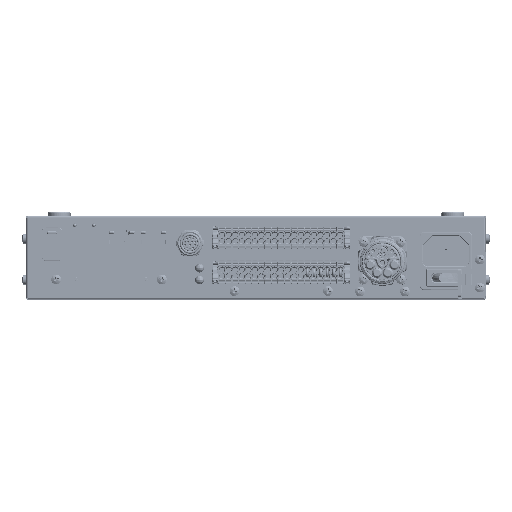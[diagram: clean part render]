
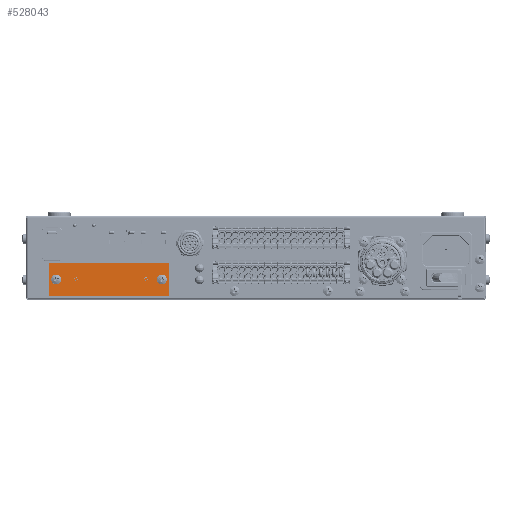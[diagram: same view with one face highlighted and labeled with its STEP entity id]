
A CAD part, top view. The second image highlights one B-rep face of the part: STEP entity #528043.
In plain terms, the highlighted planar face has unit normal (0, 0, 1).
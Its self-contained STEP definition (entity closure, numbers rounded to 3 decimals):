
#1617 = DIRECTION ( 'NONE',  ( 1., 0., 0. ) ) ;
#3649 = EDGE_CURVE ( 'NONE', #75527, #555016, #520898, .T. ) ;
#9838 = EDGE_CURVE ( 'NONE', #405489, #635443, #787280, .T. ) ;
#28063 = VECTOR ( 'NONE', #536474, 1000. ) ;
#52985 = VERTEX_POINT ( 'NONE', #846478 ) ;
#53763 = AXIS2_PLACEMENT_3D ( 'NONE', #298093, #791396, #119170 ) ;
#54445 = DIRECTION ( 'NONE',  ( 1., 0., 0. ) ) ;
#75527 = VERTEX_POINT ( 'NONE', #902372 ) ;
#77071 = CARTESIAN_POINT ( 'NONE',  ( 66.2, 10.55, 0.3 ) ) ;
#78423 = AXIS2_PLACEMENT_3D ( 'NONE', #216600, #605133, #112417 ) ;
#89277 = CARTESIAN_POINT ( 'NONE',  ( 7.5, 19.55, 0.3 ) ) ;
#96791 = EDGE_LOOP ( 'NONE', ( #684896, #564371 ) ) ;
#104015 = AXIS2_PLACEMENT_3D ( 'NONE', #663557, #260275, #245599 ) ;
#112417 = DIRECTION ( 'NONE',  ( 1., 0., 0. ) ) ;
#119170 = DIRECTION ( 'NONE',  ( 1., 0., 0. ) ) ;
#123062 = CIRCLE ( 'NONE', #271883, 1.6 ) ;
#124628 = ORIENTED_EDGE ( 'NONE', *, *, #615563, .F. ) ;
#127194 = ORIENTED_EDGE ( 'NONE', *, *, #657653, .F. ) ;
#128216 = AXIS2_PLACEMENT_3D ( 'NONE', #89277, #642035, #822168 ) ;
#129213 = DIRECTION ( 'NONE',  ( 1., 0., 0. ) ) ;
#142277 = CARTESIAN_POINT ( 'NONE',  ( 39.6, 1.55, 0.3 ) ) ;
#149290 = CARTESIAN_POINT ( 'NONE',  ( 8.5, 1.55, 0.3 ) ) ;
#169727 = EDGE_CURVE ( 'NONE', #170088, #654473, #717650, .T. ) ;
#170088 = VERTEX_POINT ( 'NONE', #149290 ) ;
#205293 = CARTESIAN_POINT ( 'NONE',  ( 13., 10.55, 0.3 ) ) ;
#210761 = DIRECTION ( 'NONE',  ( 1., 0., 0. ) ) ;
#213461 = CARTESIAN_POINT ( 'NONE',  ( 70.7, 19.55, 0.3 ) ) ;
#216600 = CARTESIAN_POINT ( 'NONE',  ( 67.8, 10.55, 0.3 ) ) ;
#221695 = ORIENTED_EDGE ( 'NONE', *, *, #897748, .F. ) ;
#245599 = DIRECTION ( 'NONE',  ( 1., 0., 0. ) ) ;
#248603 = DIRECTION ( 'NONE',  ( 0., 0., 1. ) ) ;
#260012 = EDGE_LOOP ( 'NONE', ( #668859, #444560 ) ) ;
#260275 = DIRECTION ( 'NONE',  ( 0., 0., -1. ) ) ;
#261681 = DIRECTION ( 'NONE',  ( -1., 0., 0. ) ) ;
#263974 = CARTESIAN_POINT ( 'NONE',  ( 67.8, 10.55, 0.3 ) ) ;
#271883 = AXIS2_PLACEMENT_3D ( 'NONE', #494221, #583780, #1617 ) ;
#290205 = EDGE_CURVE ( 'NONE', #554856, #170088, #739730, .T. ) ;
#298093 = CARTESIAN_POINT ( 'NONE',  ( 70.7, 2.55, 0.3 ) ) ;
#314046 = CIRCLE ( 'NONE', #541924, 1. ) ;
#319821 = CARTESIAN_POINT ( 'NONE',  ( 39.6, 19.55, 0.3 ) ) ;
#324115 = CARTESIAN_POINT ( 'NONE',  ( 8.5, 19.55, 0.3 ) ) ;
#335156 = DIRECTION ( 'NONE',  ( 1., 0., 0. ) ) ;
#353053 = VECTOR ( 'NONE', #524806, 1000. ) ;
#375331 = CARTESIAN_POINT ( 'NONE',  ( 71.7, 10.55, 0.3 ) ) ;
#381681 = ORIENTED_EDGE ( 'NONE', *, *, #290205, .F. ) ;
#402848 = FACE_OUTER_BOUND ( 'NONE', #632105, .T. ) ;
#405489 = VERTEX_POINT ( 'NONE', #845149 ) ;
#426936 = EDGE_CURVE ( 'NONE', #636043, #677058, #690935, .T. ) ;
#442971 = AXIS2_PLACEMENT_3D ( 'NONE', #741392, #652003, #54445 ) ;
#444560 = ORIENTED_EDGE ( 'NONE', *, *, #9838, .F. ) ;
#444849 = AXIS2_PLACEMENT_3D ( 'NONE', #263974, #248603, #129213 ) ;
#462326 = CARTESIAN_POINT ( 'NONE',  ( 7.5, 10.55, 0.3 ) ) ;
#480576 = ORIENTED_EDGE ( 'NONE', *, *, #3649, .F. ) ;
#494221 = CARTESIAN_POINT ( 'NONE',  ( 11.4, 10.55, 0.3 ) ) ;
#520898 = CIRCLE ( 'NONE', #104015, 1. ) ;
#523014 = ORIENTED_EDGE ( 'NONE', *, *, #169727, .F. ) ;
#524806 = DIRECTION ( 'NONE',  ( 0., -1., 0. ) ) ;
#528043 = ADVANCED_FACE ( 'NONE', ( #702059, #896206, #402848 ), #626672, .F. ) ;
#536474 = DIRECTION ( 'NONE',  ( 0., 1., 0. ) ) ;
#541924 = AXIS2_PLACEMENT_3D ( 'NONE', #838175, #791460, #210761 ) ;
#554856 = VERTEX_POINT ( 'NONE', #918983 ) ;
#555016 = VERTEX_POINT ( 'NONE', #324115 ) ;
#561605 = EDGE_CURVE ( 'NONE', #715681, #52985, #314046, .T. ) ;
#564371 = ORIENTED_EDGE ( 'NONE', *, *, #426936, .F. ) ;
#575764 = CIRCLE ( 'NONE', #78423, 1.6 ) ;
#583780 = DIRECTION ( 'NONE',  ( 0., 0., 1. ) ) ;
#595514 = VECTOR ( 'NONE', #335156, 1000. ) ;
#605133 = DIRECTION ( 'NONE',  ( 0., 0., 1. ) ) ;
#606822 = CARTESIAN_POINT ( 'NONE',  ( 71.7, 2.55, 0.3 ) ) ;
#614337 = LINE ( 'NONE', #375331, #353053 ) ;
#615563 = EDGE_CURVE ( 'NONE', #52985, #673275, #614337, .T. ) ;
#626672 = PLANE ( 'NONE',  #128216 ) ;
#630431 = VECTOR ( 'NONE', #261681, 1000. ) ;
#632105 = EDGE_LOOP ( 'NONE', ( #641801, #127194, #480576, #221695, #523014, #381681, #925481, #124628 ) ) ;
#635443 = VERTEX_POINT ( 'NONE', #205293 ) ;
#636043 = VERTEX_POINT ( 'NONE', #77071 ) ;
#641801 = ORIENTED_EDGE ( 'NONE', *, *, #561605, .F. ) ;
#642035 = DIRECTION ( 'NONE',  ( 0., 0., -1. ) ) ;
#652003 = DIRECTION ( 'NONE',  ( 0., 0., -1. ) ) ;
#654473 = VERTEX_POINT ( 'NONE', #870102 ) ;
#657653 = EDGE_CURVE ( 'NONE', #555016, #715681, #887883, .T. ) ;
#663557 = CARTESIAN_POINT ( 'NONE',  ( 8.5, 18.55, 0.3 ) ) ;
#668859 = ORIENTED_EDGE ( 'NONE', *, *, #836612, .F. ) ;
#671313 = EDGE_CURVE ( 'NONE', #677058, #636043, #575764, .T. ) ;
#673275 = VERTEX_POINT ( 'NONE', #606822 ) ;
#677058 = VERTEX_POINT ( 'NONE', #778145 ) ;
#681642 = DIRECTION ( 'NONE',  ( 1., 0., 0. ) ) ;
#684896 = ORIENTED_EDGE ( 'NONE', *, *, #671313, .F. ) ;
#690935 = CIRCLE ( 'NONE', #444849, 1.6 ) ;
#702059 = FACE_BOUND ( 'NONE', #260012, .T. ) ;
#715681 = VERTEX_POINT ( 'NONE', #213461 ) ;
#716899 = CIRCLE ( 'NONE', #53763, 1. ) ;
#717650 = CIRCLE ( 'NONE', #442971, 1. ) ;
#739730 = LINE ( 'NONE', #142277, #630431 ) ;
#741392 = CARTESIAN_POINT ( 'NONE',  ( 8.5, 2.55, 0.3 ) ) ;
#778145 = CARTESIAN_POINT ( 'NONE',  ( 69.4, 10.55, 0.3 ) ) ;
#786410 = CARTESIAN_POINT ( 'NONE',  ( 11.4, 10.55, 0.3 ) ) ;
#787280 = CIRCLE ( 'NONE', #838975, 1.6 ) ;
#791396 = DIRECTION ( 'NONE',  ( 0., 0., -1. ) ) ;
#791460 = DIRECTION ( 'NONE',  ( 0., 0., -1. ) ) ;
#801100 = DIRECTION ( 'NONE',  ( 0., 0., 1. ) ) ;
#822168 = DIRECTION ( 'NONE',  ( 1., 0., 0. ) ) ;
#836612 = EDGE_CURVE ( 'NONE', #635443, #405489, #123062, .T. ) ;
#838175 = CARTESIAN_POINT ( 'NONE',  ( 70.7, 18.55, 0.3 ) ) ;
#838975 = AXIS2_PLACEMENT_3D ( 'NONE', #786410, #801100, #681642 ) ;
#845149 = CARTESIAN_POINT ( 'NONE',  ( 9.8, 10.55, 0.3 ) ) ;
#846478 = CARTESIAN_POINT ( 'NONE',  ( 71.7, 18.55, 0.3 ) ) ;
#865584 = LINE ( 'NONE', #462326, #28063 ) ;
#870102 = CARTESIAN_POINT ( 'NONE',  ( 7.5, 2.55, 0.3 ) ) ;
#874178 = EDGE_CURVE ( 'NONE', #673275, #554856, #716899, .T. ) ;
#887883 = LINE ( 'NONE', #319821, #595514 ) ;
#896206 = FACE_BOUND ( 'NONE', #96791, .T. ) ;
#897748 = EDGE_CURVE ( 'NONE', #654473, #75527, #865584, .T. ) ;
#902372 = CARTESIAN_POINT ( 'NONE',  ( 7.5, 18.55, 0.3 ) ) ;
#918983 = CARTESIAN_POINT ( 'NONE',  ( 70.7, 1.55, 0.3 ) ) ;
#925481 = ORIENTED_EDGE ( 'NONE', *, *, #874178, .F. ) ;
